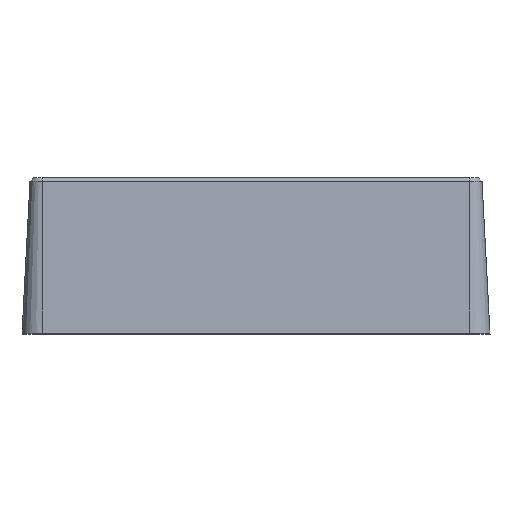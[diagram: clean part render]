
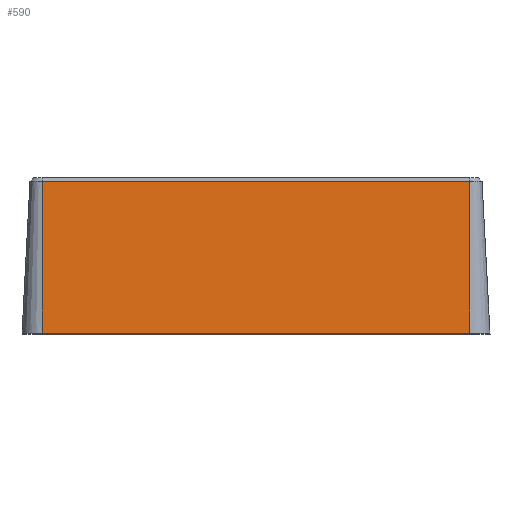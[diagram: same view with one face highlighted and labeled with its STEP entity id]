
A CAD part, top view. The second image highlights one B-rep face of the part: STEP entity #590.
In plain terms, the highlighted planar face has unit normal (0, 0.052, 0.999).
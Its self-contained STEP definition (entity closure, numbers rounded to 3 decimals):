
#590 = ADVANCED_FACE ( 'NONE', ( #1647 ), #1646, .T. ) ;
#591 = EDGE_LOOP ( 'NONE', ( #592, #596, #598, #599 ) ) ;
#592 = ORIENTED_EDGE ( 'NONE', *, *, #593, .F. ) ;
#593 = EDGE_CURVE ( 'NONE', #594, #595, #1640, .T. ) ;
#594 = VERTEX_POINT ( 'NONE', #1810 ) ;
#595 = VERTEX_POINT ( 'NONE', #1809 ) ;
#596 = ORIENTED_EDGE ( 'NONE', *, *, #597, .T. ) ;
#597 = EDGE_CURVE ( 'NONE', #594, #643, #1987, .T. ) ;
#598 = ORIENTED_EDGE ( 'NONE', *, *, #642, .T. ) ;
#599 = ORIENTED_EDGE ( 'NONE', *, *, #600, .T. ) ;
#600 = EDGE_CURVE ( 'NONE', #644, #595, #1958, .T. ) ;
#642 = EDGE_CURVE ( 'NONE', #643, #644, #1994, .T. ) ;
#643 = VERTEX_POINT ( 'NONE', #1860 ) ;
#644 = VERTEX_POINT ( 'NONE', #1859 ) ;
#1637 = DIRECTION ( 'NONE',  ( 0., -0.999, 0.052 ) ) ;
#1638 = VECTOR ( 'NONE', #1637, 1000. ) ;
#1639 = CARTESIAN_POINT ( 'NONE',  ( 36.5, 0., 65. ) ) ;
#1640 = LINE ( 'NONE', #1639, #1638 ) ;
#1642 = DIRECTION ( 'NONE',  ( 0., -0.999, 0.052 ) ) ;
#1643 = DIRECTION ( 'NONE',  ( 0., 0.052, 0.999 ) ) ;
#1644 = CARTESIAN_POINT ( 'NONE',  ( -36.5, 0., 65. ) ) ;
#1645 = AXIS2_PLACEMENT_3D ( 'NONE', #1644, #1643, #1642 ) ;
#1646 = PLANE ( 'NONE',  #1645 ) ;
#1647 = FACE_OUTER_BOUND ( 'NONE', #591, .T. ) ;
#1809 = CARTESIAN_POINT ( 'NONE',  ( 36.5, 0., 65. ) ) ;
#1810 = CARTESIAN_POINT ( 'NONE',  ( 36.5, 25.967, 63.639 ) ) ;
#1859 = CARTESIAN_POINT ( 'NONE',  ( -36.5, 0., 65. ) ) ;
#1860 = CARTESIAN_POINT ( 'NONE',  ( -36.5, 25.967, 63.639 ) ) ;
#1861 = DIRECTION ( 'NONE',  ( 0., -0.999, 0.052 ) ) ;
#1955 = DIRECTION ( 'NONE',  ( 1., 0., 0. ) ) ;
#1956 = VECTOR ( 'NONE', #1955, 1000. ) ;
#1957 = CARTESIAN_POINT ( 'NONE',  ( -36.5, 0., 65. ) ) ;
#1958 = LINE ( 'NONE', #1957, #1956 ) ;
#1984 = DIRECTION ( 'NONE',  ( -1., 0., 0. ) ) ;
#1985 = VECTOR ( 'NONE', #1984, 1000. ) ;
#1986 = CARTESIAN_POINT ( 'NONE',  ( -36.5, 25.967, 63.639 ) ) ;
#1987 = LINE ( 'NONE', #1986, #1985 ) ;
#1988 = VECTOR ( 'NONE', #1861, 1000. ) ;
#1989 = CARTESIAN_POINT ( 'NONE',  ( -36.5, 0., 65. ) ) ;
#1994 = LINE ( 'NONE', #1989, #1988 ) ;
